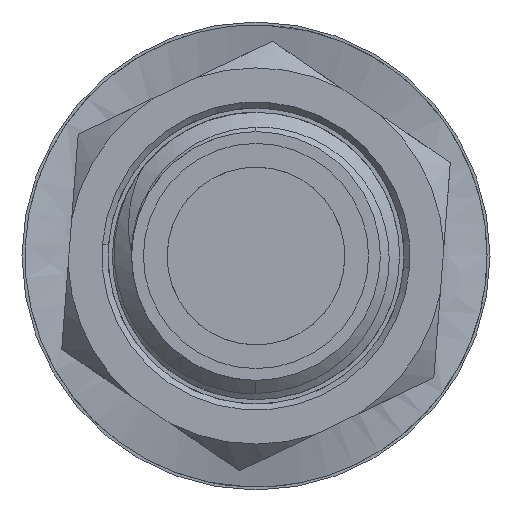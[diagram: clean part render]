
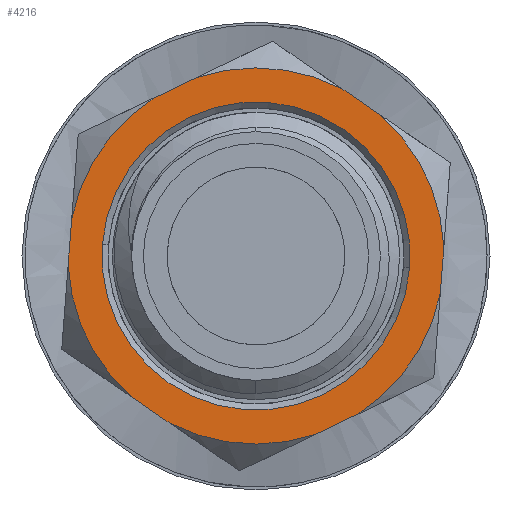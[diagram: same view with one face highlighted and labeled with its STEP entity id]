
A CAD part, front view. The second image highlights one B-rep face of the part: STEP entity #4216.
In plain terms, the highlighted planar face has unit normal (0, -1, 0) as drawn and (0, 0, -1) by its records, which use the part's own axes.
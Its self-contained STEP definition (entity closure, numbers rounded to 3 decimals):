
#85 = VERTEX_POINT ( 'NONE', #4310 ) ;
#131 = VERTEX_POINT ( 'NONE', #2224 ) ;
#202 = CARTESIAN_POINT ( 'NONE',  ( 0., 3.637, 0. ) ) ;
#297 = CARTESIAN_POINT ( 'NONE',  ( 0., 0., 0. ) ) ;
#319 = CARTESIAN_POINT ( 'NONE',  ( 3.15, -1.819, 0. ) ) ;
#410 = VERTEX_POINT ( 'NONE', #2036 ) ;
#548 = VERTEX_POINT ( 'NONE', #5253 ) ;
#566 = EDGE_CURVE ( 'NONE', #2137, #5284, #4683, .T. ) ;
#611 = AXIS2_PLACEMENT_3D ( 'NONE', #297, #6041, #1380 ) ;
#657 = CARTESIAN_POINT ( 'NONE',  ( 0., 0., 0. ) ) ;
#687 = LINE ( 'NONE', #202, #767 ) ;
#737 = DIRECTION ( 'NONE',  ( 0., 0., -1. ) ) ;
#762 = EDGE_CURVE ( 'NONE', #2137, #5628, #3917, .T. ) ;
#767 = VECTOR ( 'NONE', #3882, 1000. ) ;
#807 = DIRECTION ( 'NONE',  ( 0., 0., 1. ) ) ;
#844 = CARTESIAN_POINT ( 'NONE',  ( 3.15, 1.819, 0. ) ) ;
#1016 = ORIENTED_EDGE ( 'NONE', *, *, #6165, .T. ) ;
#1076 = EDGE_CURVE ( 'NONE', #4930, #6322, #6190, .T. ) ;
#1173 = DIRECTION ( 'NONE',  ( 0.866, 0.5, 0. ) ) ;
#1356 = CIRCLE ( 'NONE', #2228, 3.175 ) ;
#1358 = LINE ( 'NONE', #844, #1754 ) ;
#1367 = VERTEX_POINT ( 'NONE', #1414 ) ;
#1380 = DIRECTION ( 'NONE',  ( 1., 0., 0. ) ) ;
#1389 = ORIENTED_EDGE ( 'NONE', *, *, #1956, .F. ) ;
#1414 = CARTESIAN_POINT ( 'NONE',  ( 1.231, -2.927, 0. ) ) ;
#1490 = LINE ( 'NONE', #5713, #2958 ) ;
#1491 = DIRECTION ( 'NONE',  ( 0.866, -0.5, 0. ) ) ;
#1511 = CARTESIAN_POINT ( 'NONE',  ( -1.231, 2.927, 0. ) ) ;
#1549 = EDGE_LOOP ( 'NONE', ( #5732, #4280, #1389, #1611, #2375, #2176, #5545, #2115, #5613, #5744, #2360, #3076 ) ) ;
#1602 = CIRCLE ( 'NONE', #3986, 3.175 ) ;
#1611 = ORIENTED_EDGE ( 'NONE', *, *, #2697, .T. ) ;
#1648 = LINE ( 'NONE', #4708, #5576 ) ;
#1667 = DIRECTION ( 'NONE',  ( 1., 0., 0. ) ) ;
#1694 = EDGE_CURVE ( 'NONE', #131, #2079, #1602, .T. ) ;
#1725 = VERTEX_POINT ( 'NONE', #4319 ) ;
#1744 = DIRECTION ( 'NONE',  ( 0., 0., -1. ) ) ;
#1754 = VECTOR ( 'NONE', #2919, 1000. ) ;
#1827 = VECTOR ( 'NONE', #1491, 1000. ) ;
#1850 = LINE ( 'NONE', #319, #5844 ) ;
#1854 = CARTESIAN_POINT ( 'NONE',  ( 0., 0., 0. ) ) ;
#1919 = CARTESIAN_POINT ( 'NONE',  ( 0., 3.637, 0. ) ) ;
#1931 = ORIENTED_EDGE ( 'NONE', *, *, #3617, .T. ) ;
#1956 = EDGE_CURVE ( 'NONE', #1367, #1725, #1648, .T. ) ;
#1963 = AXIS2_PLACEMENT_3D ( 'NONE', #3901, #3011, #6495 ) ;
#2036 = CARTESIAN_POINT ( 'NONE',  ( 1.919, 2.529, 0. ) ) ;
#2079 = VERTEX_POINT ( 'NONE', #5863 ) ;
#2115 = ORIENTED_EDGE ( 'NONE', *, *, #1694, .T. ) ;
#2137 = VERTEX_POINT ( 'NONE', #3683 ) ;
#2176 = ORIENTED_EDGE ( 'NONE', *, *, #566, .T. ) ;
#2224 = CARTESIAN_POINT ( 'NONE',  ( -3.15, 0.398, 0. ) ) ;
#2228 = AXIS2_PLACEMENT_3D ( 'NONE', #3845, #3447, #2395 ) ;
#2304 = EDGE_LOOP ( 'NONE', ( #1931, #1016 ) ) ;
#2349 = CIRCLE ( 'NONE', #5941, 2.6 ) ;
#2360 = ORIENTED_EDGE ( 'NONE', *, *, #5390, .F. ) ;
#2375 = ORIENTED_EDGE ( 'NONE', *, *, #762, .F. ) ;
#2395 = DIRECTION ( 'NONE',  ( 1., 0., 0. ) ) ;
#2505 = DIRECTION ( 'NONE',  ( 0., -1., 0. ) ) ;
#2517 = AXIS2_PLACEMENT_3D ( 'NONE', #1919, #807, #6011 ) ;
#2544 = CARTESIAN_POINT ( 'NONE',  ( -3.15, -1.819, 0. ) ) ;
#2597 = CIRCLE ( 'NONE', #5324, 3.175 ) ;
#2697 = EDGE_CURVE ( 'NONE', #1367, #5628, #2597, .T. ) ;
#2919 = DIRECTION ( 'NONE',  ( -0.866, 0.5, 0. ) ) ;
#2958 = VECTOR ( 'NONE', #2505, 1000. ) ;
#3011 = DIRECTION ( 'NONE',  ( 0., 0., -1. ) ) ;
#3060 = CARTESIAN_POINT ( 'NONE',  ( -3.15, -0.398, 0. ) ) ;
#3076 = ORIENTED_EDGE ( 'NONE', *, *, #6511, .T. ) ;
#3265 = AXIS2_PLACEMENT_3D ( 'NONE', #3673, #4731, #3936 ) ;
#3447 = DIRECTION ( 'NONE',  ( 0., 0., -1. ) ) ;
#3545 = EDGE_CURVE ( 'NONE', #5587, #1725, #1356, .T. ) ;
#3617 = EDGE_CURVE ( 'NONE', #85, #5407, #6031, .T. ) ;
#3673 = CARTESIAN_POINT ( 'NONE',  ( 0., 0., 0. ) ) ;
#3683 = CARTESIAN_POINT ( 'NONE',  ( -1.919, -2.529, 0. ) ) ;
#3845 = CARTESIAN_POINT ( 'NONE',  ( 0., 0., 0. ) ) ;
#3882 = DIRECTION ( 'NONE',  ( -0.866, -0.5, 0. ) ) ;
#3888 = EDGE_CURVE ( 'NONE', #131, #5284, #1490, .T. ) ;
#3901 = CARTESIAN_POINT ( 'NONE',  ( 0., 0., 0. ) ) ;
#3917 = LINE ( 'NONE', #2544, #1827 ) ;
#3936 = DIRECTION ( 'NONE',  ( 1., 0., 0. ) ) ;
#3943 = CIRCLE ( 'NONE', #1963, 3.175 ) ;
#3986 = AXIS2_PLACEMENT_3D ( 'NONE', #4753, #5904, #1667 ) ;
#4216 = ADVANCED_FACE ( 'NONE', ( #6528, #5498 ), #4487, .F. ) ;
#4280 = ORIENTED_EDGE ( 'NONE', *, *, #3545, .T. ) ;
#4310 = CARTESIAN_POINT ( 'NONE',  ( -2.6, 0., 0. ) ) ;
#4319 = CARTESIAN_POINT ( 'NONE',  ( 1.919, -2.529, 0. ) ) ;
#4353 = DIRECTION ( 'NONE',  ( 1., 0., 0. ) ) ;
#4355 = CARTESIAN_POINT ( 'NONE',  ( 3.15, -0.398, 0. ) ) ;
#4362 = AXIS2_PLACEMENT_3D ( 'NONE', #657, #1744, #5756 ) ;
#4487 = PLANE ( 'NONE',  #2517 ) ;
#4683 = CIRCLE ( 'NONE', #4362, 3.175 ) ;
#4708 = CARTESIAN_POINT ( 'NONE',  ( 0., -3.637, 0. ) ) ;
#4731 = DIRECTION ( 'NONE',  ( 0., 0., -1. ) ) ;
#4753 = CARTESIAN_POINT ( 'NONE',  ( 0., 0., 0. ) ) ;
#4930 = VERTEX_POINT ( 'NONE', #1511 ) ;
#5101 = EDGE_CURVE ( 'NONE', #4930, #2079, #687, .T. ) ;
#5129 = CARTESIAN_POINT ( 'NONE',  ( -1.231, -2.927, 0. ) ) ;
#5207 = CARTESIAN_POINT ( 'NONE',  ( 2.6, 0., 0. ) ) ;
#5253 = CARTESIAN_POINT ( 'NONE',  ( 3.15, 0.398, 0. ) ) ;
#5284 = VERTEX_POINT ( 'NONE', #3060 ) ;
#5311 = CARTESIAN_POINT ( 'NONE',  ( 0., 0., 0. ) ) ;
#5324 = AXIS2_PLACEMENT_3D ( 'NONE', #1854, #737, #6460 ) ;
#5390 = EDGE_CURVE ( 'NONE', #410, #6322, #1358, .T. ) ;
#5407 = VERTEX_POINT ( 'NONE', #5207 ) ;
#5498 = FACE_OUTER_BOUND ( 'NONE', #1549, .T. ) ;
#5545 = ORIENTED_EDGE ( 'NONE', *, *, #3888, .F. ) ;
#5576 = VECTOR ( 'NONE', #1173, 1000. ) ;
#5587 = VERTEX_POINT ( 'NONE', #4355 ) ;
#5613 = ORIENTED_EDGE ( 'NONE', *, *, #5101, .F. ) ;
#5628 = VERTEX_POINT ( 'NONE', #5129 ) ;
#5713 = CARTESIAN_POINT ( 'NONE',  ( -3.15, 1.819, 0. ) ) ;
#5732 = ORIENTED_EDGE ( 'NONE', *, *, #5981, .F. ) ;
#5744 = ORIENTED_EDGE ( 'NONE', *, *, #1076, .T. ) ;
#5756 = DIRECTION ( 'NONE',  ( 1., 0., 0. ) ) ;
#5844 = VECTOR ( 'NONE', #6065, 1000. ) ;
#5863 = CARTESIAN_POINT ( 'NONE',  ( -1.919, 2.529, 0. ) ) ;
#5879 = DIRECTION ( 'NONE',  ( 0., 0., 1. ) ) ;
#5904 = DIRECTION ( 'NONE',  ( 0., 0., -1. ) ) ;
#5941 = AXIS2_PLACEMENT_3D ( 'NONE', #5311, #5879, #4353 ) ;
#5981 = EDGE_CURVE ( 'NONE', #5587, #548, #1850, .T. ) ;
#6011 = DIRECTION ( 'NONE',  ( 1., 0., 0. ) ) ;
#6031 = CIRCLE ( 'NONE', #611, 2.6 ) ;
#6041 = DIRECTION ( 'NONE',  ( 0., 0., 1. ) ) ;
#6065 = DIRECTION ( 'NONE',  ( 0., 1., 0. ) ) ;
#6165 = EDGE_CURVE ( 'NONE', #5407, #85, #2349, .T. ) ;
#6190 = CIRCLE ( 'NONE', #3265, 3.175 ) ;
#6322 = VERTEX_POINT ( 'NONE', #6593 ) ;
#6460 = DIRECTION ( 'NONE',  ( 1., 0., 0. ) ) ;
#6495 = DIRECTION ( 'NONE',  ( 1., 0., 0. ) ) ;
#6511 = EDGE_CURVE ( 'NONE', #410, #548, #3943, .T. ) ;
#6528 = FACE_BOUND ( 'NONE', #2304, .T. ) ;
#6593 = CARTESIAN_POINT ( 'NONE',  ( 1.231, 2.927, 0. ) ) ;
